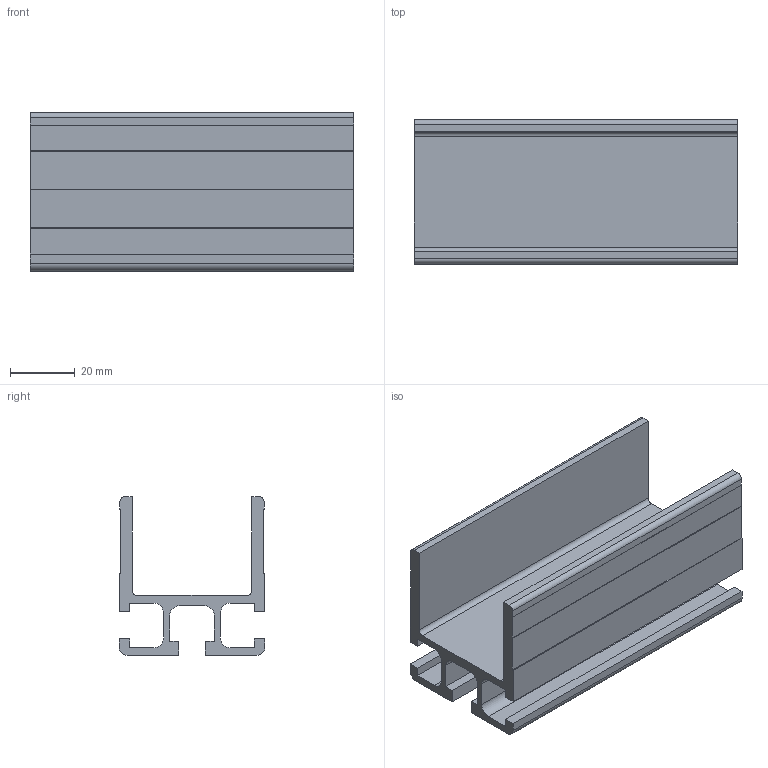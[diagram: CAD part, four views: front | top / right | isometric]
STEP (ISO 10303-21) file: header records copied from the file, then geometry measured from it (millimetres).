
FILE_DESCRIPTION (( 'STEP AP214' ), '1' );
FILE_NAME ('084.101.035.STEP', '2020-07-23T07:25:29', ( '' ), ( '' ), 'SwSTEP 2.0', 'SolidWorks 2018', '' );
FILE_SCHEMA (( 'AUTOMOTIVE_DESIGN' ));
Length unit declared in the file: millimetre
Products named in the file (1): 084.101.035
Bounding box: 100 x 45 x 49 mm (x, y, z)
Volume: 54105.6 mm3; surface area: 36614 mm2
Topology: 1 solids, 1 shells, 60 faces, 174 edges, 116 vertices
Faces by surface type: plane 48, cylinder 12
Entity records: 1996 total; most frequent: CARTESIAN_POINT 351, ORIENTED_EDGE 348, DIRECTION 320, EDGE_CURVE 174, LINE 150, VECTOR 150, VERTEX_POINT 116, AXIS2_PLACEMENT_3D 85
